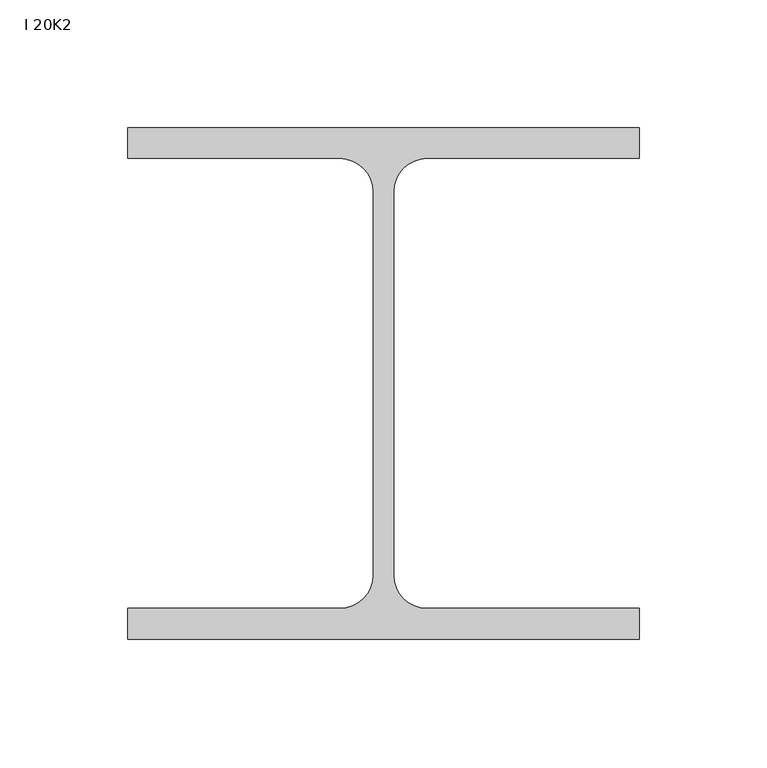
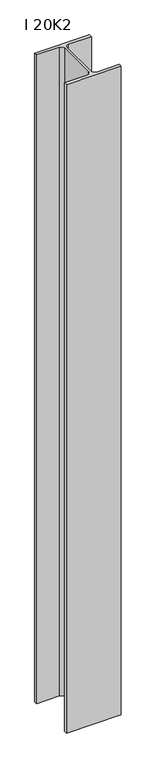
"""IFC4 building model written with IfcOpenShell, lengths in millimetres: column geometry, Двутавровая балка (ASTO20-93)-Колонна : I 20K2."""

from ifc_helpers import new_model, si_unit, point, frame_2d, origin, origin_with_axes, place, context, project, spatial, polyline, circle_curve, trimmed, segment, composite_curve, outline, extrude, source, transform, mapped, element, save


def i_20k2_d5cf9b9c(model_context):
    return source(origin(), model_context, "Body", "SweptSolid", [
        extrude(outline(composite_curve([segment(polyline([(-100.0, 87.5), (-100.0, 99.5), (100.0, 99.5), (100.0, 87.5), (17.0, 87.5)]), True, "CONTINUOUS"), segment(trimmed(circle_curve(frame_2d((17.0, 74.5)), 13.0), [point((17.0, 87.5))], [point((4.0, 74.5))], True, "CARTESIAN"), True, "CONTINUOUS"), segment(polyline([(4.0, 74.5), (4.0, -75.5)]), True, "CONTINUOUS"), segment(trimmed(circle_curve(frame_2d((17.0, -75.5)), 13.0), [point((4.0, -75.5))], [point((17.0, -88.5))], True, "CARTESIAN"), True, "CONTINUOUS"), segment(polyline([(17.0, -88.5), (100.0, -88.5), (100.0, -100.5), (-100.0, -100.5), (-100.0, -88.5), (-17.0, -88.5)]), True, "CONTINUOUS"), segment(trimmed(circle_curve(frame_2d((-17.0, -75.5)), 13.0), [point((-17.0, -88.5))], [point((-4.0, -75.5))], True, "CARTESIAN"), True, "CONTINUOUS"), segment(polyline([(-4.0, -75.5), (-4.0, 74.5)]), True, "CONTINUOUS"), segment(trimmed(circle_curve(frame_2d((-17.0, 74.5)), 13.0), [point((-4.0, 74.5))], [point((-17.0, 87.5))], True, "CARTESIAN"), True, "CONTINUOUS"), segment(polyline([(-17.0, 87.5), (-100.0, 87.5)]), True, "CONTINUOUS")], self_intersect=False)), origin_with_axes(), (0.0, 0.0, 1.0), 2500.0),
    ])


if __name__ == "__main__":
    model = new_model("IFC4")
    model_context = context("Model", 3, world=origin())
    ifc_project = project(units=[si_unit("LENGTHUNIT", "METRE", prefix="MILLI")], contexts=[model_context])
    site = spatial("IfcSite", under=ifc_project)
    building = spatial("IfcBuilding", under=site)
    placement = place(None, origin())
    i_20k2_shape = i_20k2_d5cf9b9c(model_context)
    element("IfcColumn", 1, ObjectType="Двутавровая балка (ASTO20-93)-Колонна : I 20K2", at=placement, inside=building, context=model_context, shape_type="MappedRepresentation", body=[
        mapped(i_20k2_shape, transform((0.0, 0.0, 0.0), x_axis=(1.0, 0.0, 0.0), y_axis=(0.0, 1.0, 0.0), z_axis=(0.0, 0.0, 1.0))),
    ])
    save(model, "model.ifc")
